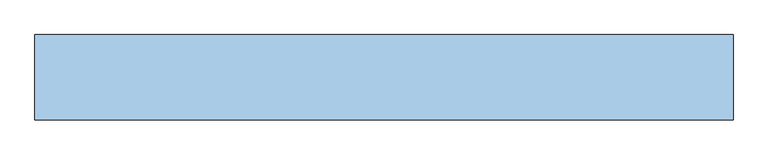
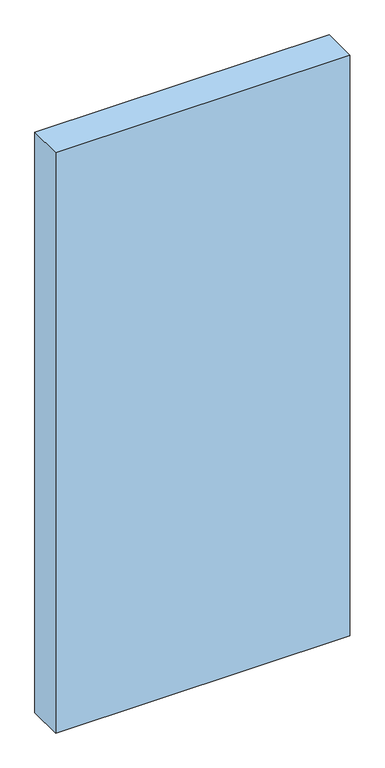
"""IFC4 building model written with IfcOpenShell, lengths in millimetres: window geometry, Dr_Проем-Четверти_об модель : ОК."""

from ifc_helpers import new_model, si_unit, frame, origin, place, context, project, spatial, polyline, outline, extrude, source, transform, mapped, element, save


def window_b3617a5d(model_context):
    return source(origin(), model_context, "Body", "SweptSolid", [
        extrude(outline(polyline([(955.0, 100.0), (955.0, -100.0), (-685.0, -100.0), (-685.0, 100.0), (955.0, 100.0)])), frame((0.0, 0.0, -250.0), z_axis=(0.0, 0.0, 1.0), x_axis=(1.0, 0.0, 0.0)), (0.0, 0.0, 1.0), 3420.0),
    ])


if __name__ == "__main__":
    model = new_model("IFC4")
    model_context = context("Model", 3, world=origin())
    ifc_project = project(units=[si_unit("LENGTHUNIT", "METRE", prefix="MILLI")], contexts=[model_context])
    site = spatial("IfcSite", under=ifc_project)
    building = spatial("IfcBuilding", under=site)
    placement = place(None, origin())
    window_shape = window_b3617a5d(model_context)
    element("IfcWindow", 1, ObjectType="Dr_Проем-Четверти_об модель : ОК", at=placement, inside=building, context=model_context, shape_type="MappedRepresentation", body=[
        mapped(window_shape, transform((0.0, 0.0, 0.0), x_axis=(1.0, 0.0, 0.0), y_axis=(0.0, 1.0, 0.0), z_axis=(0.0, 0.0, 1.0))),
    ])
    save(model, "model.ifc")
